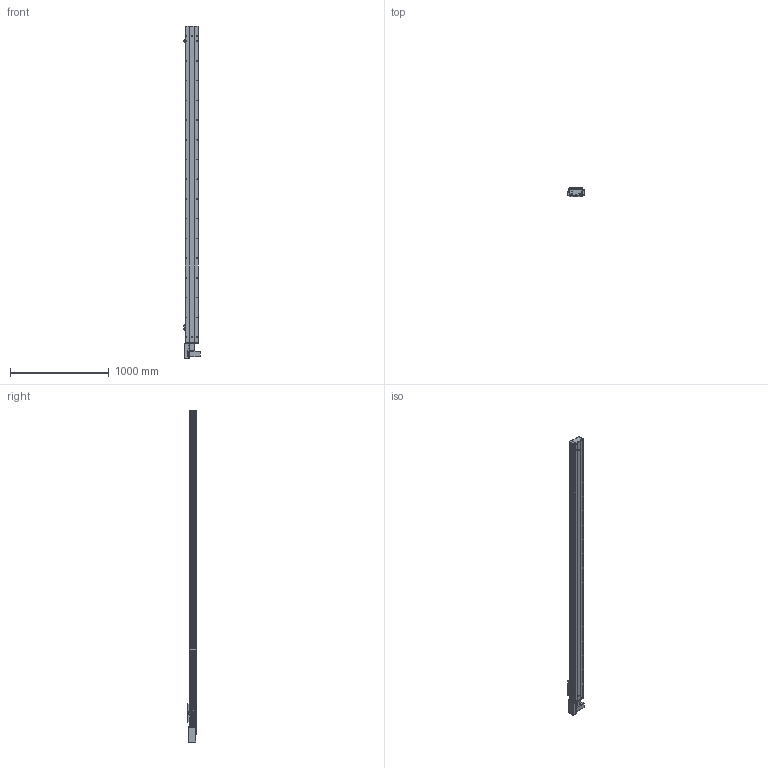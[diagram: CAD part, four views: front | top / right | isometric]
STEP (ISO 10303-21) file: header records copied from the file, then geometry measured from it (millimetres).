
FILE_DESCRIPTION (( 'STEP AP203' ), '1' );
FILE_NAME ('Y135CB-D90-S2900-BR-P400W.STEP', '2020-02-18T03:18:30', ( '微软用户' ), ( '微软中国' ), 'SwSTEP 2.0', 'SolidWorks 2017', '' );
FILE_SCHEMA (( 'CONFIG_CONTROL_DESIGN' ));
Length unit declared in the file: millimetre
Products named in the file (18): 0B-源倛裔啣; C-雄赽釱--; 0B-萇儂楊擘啣; Y10B--々湍喘謫眊--666; san松下电机400不带刹车----; Y135CB-耜裔; Y135CB-D90-S2900-BR-P400W; 5CB --掛极耜裔啣-; 135CB---遴掛极.-; C-詩湍揤踡え-陔; 35CB---喘謫眊楊擘啣; 135CB--詩湍-CE; Y10B-耜蚾蟀諉啣----; Y100-135俋离換覜ん--; Y俋欶BR----; Y135C-陔俋离換覜結え-; 0B-埴倛裔啣; 5C--俋欶
Assembly tree (21 placements, depth 2):
  Y135CB-D90-S2900-BR-P400W
    Y135CB-耜裔
    135CB---遴掛极.-
    35CB---喘謫眊楊擘啣
    Y10B-耜蚾蟀諉啣----
    Y俋欶BR----
    0B-埴倛裔啣
    0B-源倛裔啣
    0B-萇儂楊擘啣
    san松下电机400不带刹车----
    5CB --掛极耜裔啣-  x2
    C-詩湍揤踡え-陔  x2
    135CB--詩湍-CE
    Y100-135俋离換覜ん--  x3
    Y135C-陔俋离換覜結え-
    5C--俋欶
    C-雄赽釱--
    Y10B--々湍喘謫眊--666
Bounding box: 167.5 x 91 x 3364.5 mm (x, y, z)
Volume: 9321319.8 mm3; surface area: 3698169.6 mm2
Topology: 21 solids, 21 shells, 985 faces, 2707 edges, 1794 vertices
Faces by surface type: cylinder 511, plane 458, cone 16
Entity records: 31361 total; most frequent: CARTESIAN_POINT 5252, DIRECTION 5211, ORIENTED_EDGE 4890, EDGE_CURVE 2445, AXIS2_PLACEMENT_3D 1913, VERTEX_POINT 1622, VECTOR 1385, LINE 1385
